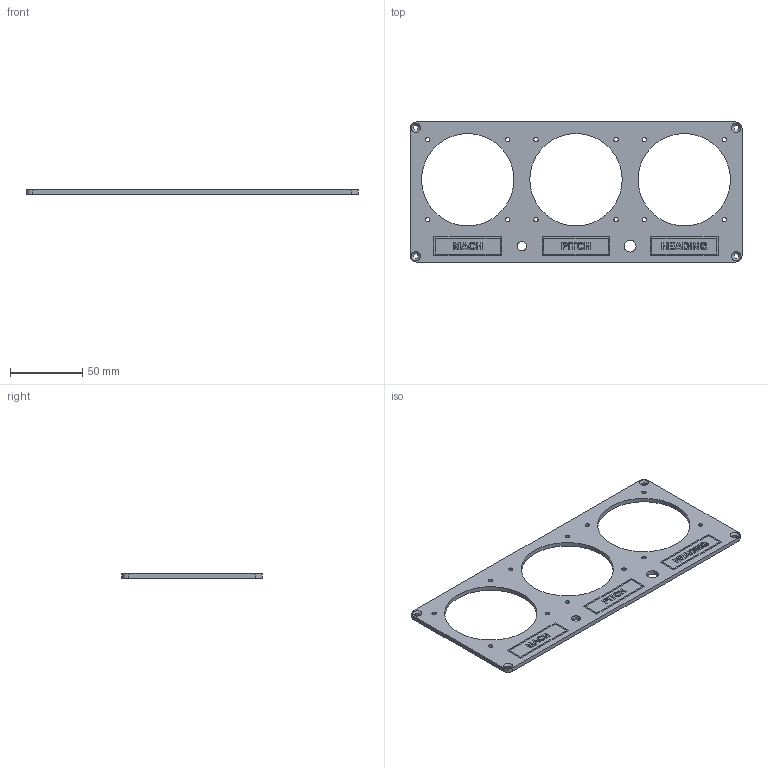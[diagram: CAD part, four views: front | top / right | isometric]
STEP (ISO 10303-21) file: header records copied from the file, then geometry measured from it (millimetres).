
FILE_DESCRIPTION(/* description */ (''),/* implementation_level */ '2;1');
FILE_NAME(/* name */ 'C:/Users/anton/Documents/Kerbal Space Program/Kerbal_Control_Panel/KCP2/CAD/STEPs/ModuleG_v2.step',/* time_stamp */ '2020-11-12T07:54:59-08:00',/* author */ (''),/* organization */ (''),/* preprocessor_version */ 'ST-DEVELOPER v18.1',/* originating_system */ 'Autodesk Translation Framework v9.3.0.1241',/* authorisation */ '');
FILE_SCHEMA (('AUTOMOTIVE_DESIGN { 1 0 10303 214 3 1 1 }'));
Length unit declared in the file: millimetre
Products named in the file (1): G-Plate
Bounding box: 230 x 97 x 3.02 mm (x, y, z)
Volume: 37275 mm3; surface area: 32880.3 mm2
Topology: 4 solids, 4 shells, 300 faces, 803 edges, 534 vertices
Faces by surface type: plane 192, bspline 79, cylinder 25, cone 4
Full cylindrical faces by diameter (mm): 3 x12, 3.4 x4, 6.25 x1, 8.25 x1, 64 x3
Entity records: 10313 total; most frequent: CARTESIAN_POINT 3136, ORIENTED_EDGE 1606, DIRECTION 1143, EDGE_CURVE 803, LINE 591, VECTOR 591, VERTEX_POINT 534, EDGE_LOOP 365
